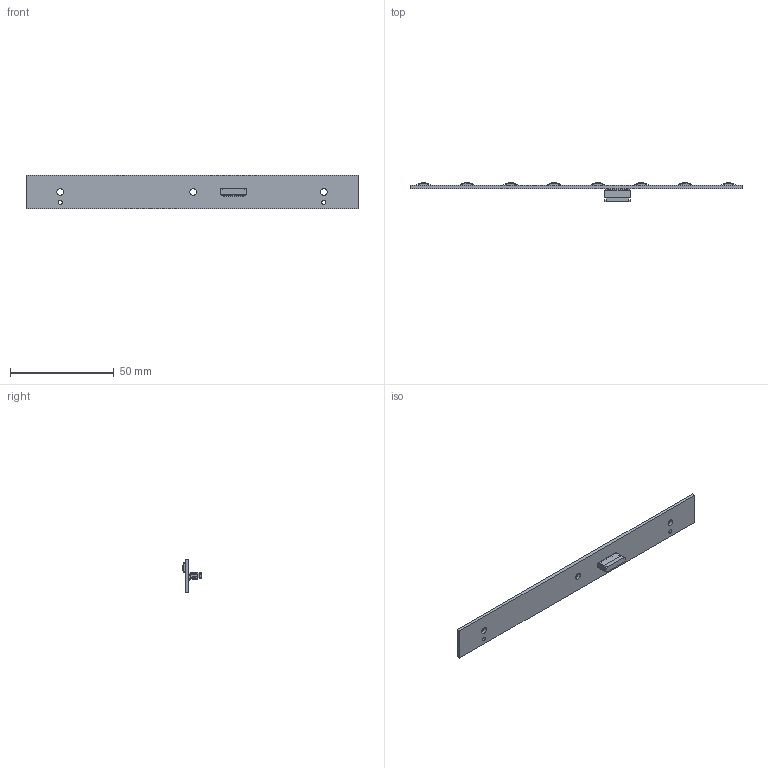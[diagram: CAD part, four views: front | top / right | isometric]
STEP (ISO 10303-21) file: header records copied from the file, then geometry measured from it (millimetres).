
FILE_DESCRIPTION((''),'2;1');
FILE_NAME('BUTTON_PCB_ASSY_ASM','2020-08-11T',('G6003023'),(''),'PRO/ENGINEER BY PARAMETRIC TECHNOLOGY CORPORATION, 2013150','PRO/ENGINEER BY PARAMETRIC TECHNOLOGY CORPORATION, 2013150','');
FILE_SCHEMA(('CONFIG_CONTROL_DESIGN'));
Length unit declared in the file: millimetre
Products named in the file (18): BUTTON_PCB; TACT_SWITCH; MSBR-13-001; MSBR-12-001; MSBR-11-001; MSBR-10-001; MSBR-9-001; MSBR-8-001; MSBR-7-001; MSBR-6-001; MSBR-5-001; MSBR-4-001; MSBR-3-001; MSBR-2-001; MSBR-1-001; HS6110E-10PIN_ASM; CONNECTOR_PLUG-10PIN; BUTTON_PCB_ASSY_ASM
Assembly tree (24 placements, depth 3):
  BUTTON_PCB_ASSY_ASM
    BUTTON_PCB
    TACT_SWITCH  x8
    HS6110E-10PIN_ASM
      MSBR-13-001
      MSBR-12-001
      MSBR-11-001
      MSBR-10-001
      MSBR-9-001
      MSBR-8-001
      MSBR-7-001
      MSBR-6-001
      MSBR-5-001
      MSBR-4-001
      MSBR-3-001
      MSBR-2-001
      MSBR-1-001
    CONNECTOR_PLUG-10PIN
Bounding box: 160 x 9.3 x 16 mm (x, y, z)
Volume: 4459.3 mm3; surface area: 6890.3 mm2
Topology: 23 solids, 23 shells, 1372 faces, 3863 edges, 2538 vertices
Faces by surface type: plane 938, cylinder 354, bspline 48, sphere 32
Entity records: 32585 total; most frequent: CARTESIAN_POINT 6115, ORIENTED_EDGE 5570, DIRECTION 5379, EDGE_CURVE 2785, VECTOR 2193, LINE 2193, VERTEX_POINT 1852, AXIS2_PLACEMENT_3D 1593
